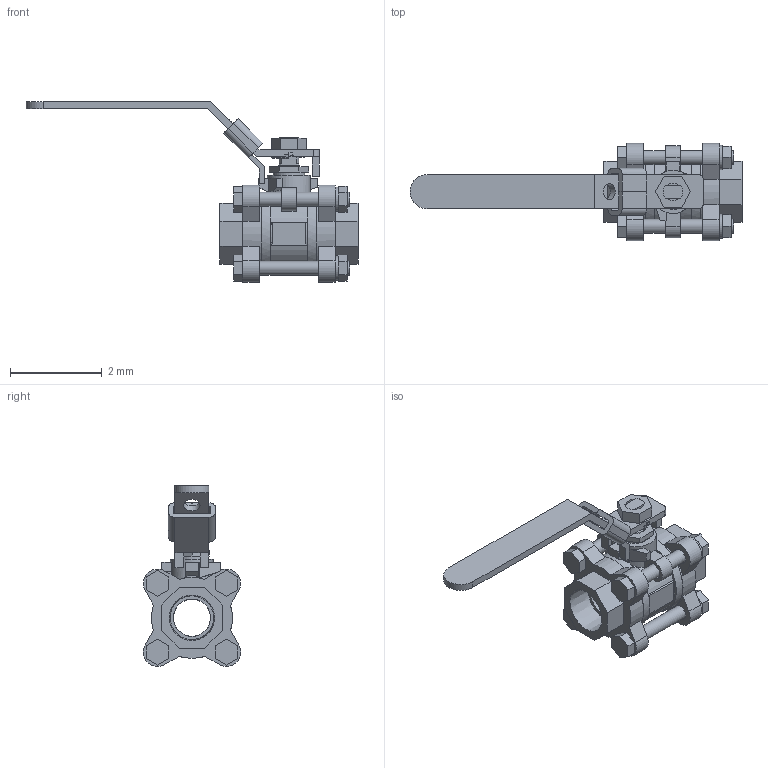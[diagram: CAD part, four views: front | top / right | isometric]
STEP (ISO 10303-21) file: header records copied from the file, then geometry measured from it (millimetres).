
FILE_DESCRIPTION(('Open CASCADE Model'),'2;1');
FILE_NAME('Open CASCADE Shape Model','2022-01-13T09:57:09',('Author'),( 'Open CASCADE'),'Open CASCADE STEP processor 7.3','Open CASCADE 7.3' ,'Unknown');
FILE_SCHEMA(('AUTOMOTIVE_DESIGN { 1 0 10303 214 1 1 1 1 }'));
Length unit declared in the file: millimetre
Products named in the file (7): Open CASCADE STEP translator 7.3 1; Open CASCADE STEP translator 7.3 1.1; Open CASCADE STEP translator 7.3 1.2; Open CASCADE STEP translator 7.3 1.3; Open CASCADE STEP translator 7.3 1.4; Open CASCADE STEP translator 7.3 1.5; Open CASCADE STEP translator 7.3 1.6
Assembly tree (6 placements, depth 2):
  Open CASCADE STEP translator 7.3 1
    Open CASCADE STEP translator 7.3 1.1
    Open CASCADE STEP translator 7.3 1.2
    Open CASCADE STEP translator 7.3 1.3
    Open CASCADE STEP translator 7.3 1.4
    Open CASCADE STEP translator 7.3 1.5
    Open CASCADE STEP translator 7.3 1.6
Bounding box: 7.24 x 2.12 x 3.94 mm (x, y, z)
Volume: 7.6 mm3; surface area: 74.4 mm2
Topology: 6 solids, 6 shells, 338 faces, 861 edges, 571 vertices
Faces by surface type: plane 250, cylinder 68, cone 11, torus 9
Full cylindrical faces by diameter (mm): 0.305 x8, 0.325 x4, 0.345 x8, 0.355 x1, 0.36 x2, 0.471 x1, 0.53 x4, 0.688 x1, 0.805 x1, 0.81 x2, 0.94 x1, 1.75 x2, 1.765 x2
Entity records: 24184 total; most frequent: CARTESIAN_POINT 6712, DIRECTION 3268, LINE 2020, VECTOR 2020, ORIENTED_EDGE 1722, PCURVE 1722, DEFINITIONAL_REPRESENTATION 1722, EDGE_CURVE 861
